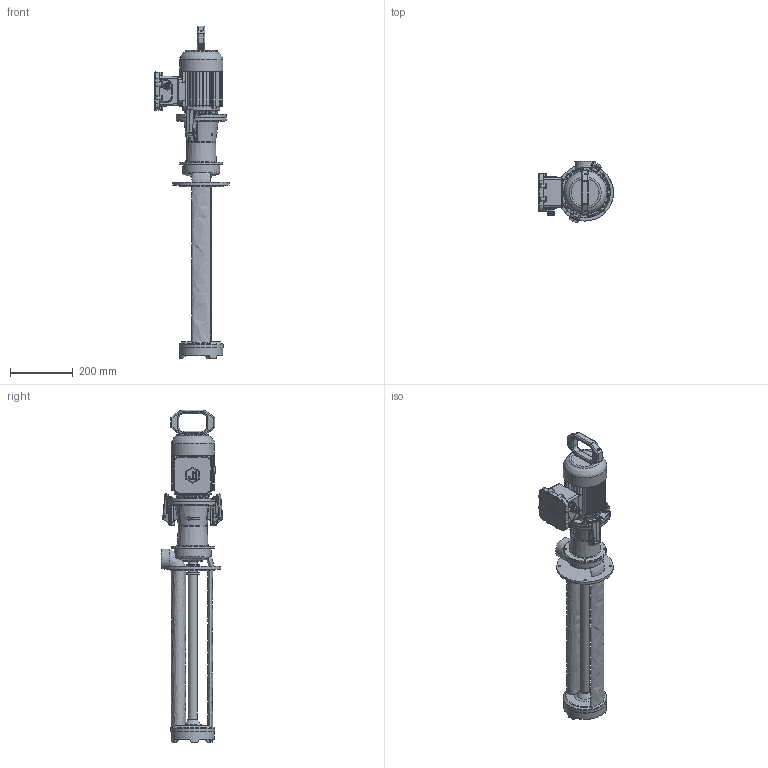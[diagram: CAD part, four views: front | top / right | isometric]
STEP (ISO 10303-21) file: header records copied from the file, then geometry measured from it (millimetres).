
FILE_DESCRIPTION(/* description */ ('Unknown'),/* implementation_level */ '2;1');
FILE_NAME(/* name */ 'EP EX 150-550',/* time_stamp */ '2025-05-30T16:26:14+03:00',/* author */ ('Unknown'),/* organization */ ('Unknown'),/* preprocessor_version */ 'ST-DEVELOPER v16.7',/* originating_system */ 'DEX',/* authorisation */ $);
FILE_SCHEMA (('AUTOMOTIVE_DESIGN {1 0 10303 214 3 1 1}'));
Length unit declared in the file: millimetre
Products named in the file (1): EP EX 150-550
Bounding box: 238.5 x 195.43 x 1057.21 mm (x, y, z)
Volume: 7694236.7 mm3; surface area: 801447.2 mm2
Topology: 2 solids, 10 shells, 2376 faces, 6461 edges, 4009 vertices
Faces by surface type: cylinder 897, plane 741, bspline 368, torus 201, cone 90, sphere 79
Full cylindrical faces by diameter (mm): 3 x12, 3.242 x12, 4 x14, 4.134 x24, 4.9 x4, 5 x86, 5.3 x4, 5.5 x2, 5.7 x8, 6 x8, 7 x8, 8 x3, 9.5 x8, 10 x8, 12 x1, 13 x2, 13.962 x1, 16 x1, 18.376 x5, 20 x1, 21.8 x2, 28 x1, 29 x3, 30 x1, 42 x2, 44 x1, 48 x1, 62 x1, 94 x1, 102 x1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
Entity records: 113401 total; most frequent: CARTESIAN_POINT 43043, ORIENTED_EDGE 11576, DIRECTION 10828, EDGE_CURVE 5788, AXIS2_PLACEMENT_3D 4274, VERTEX_POINT 3794, FACE_BOUND 2816, EDGE_LOOP 2808
